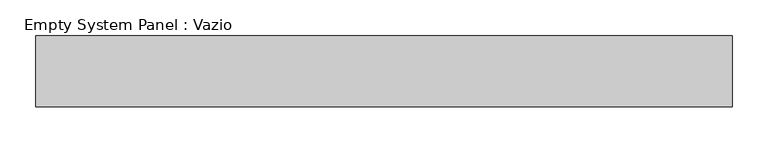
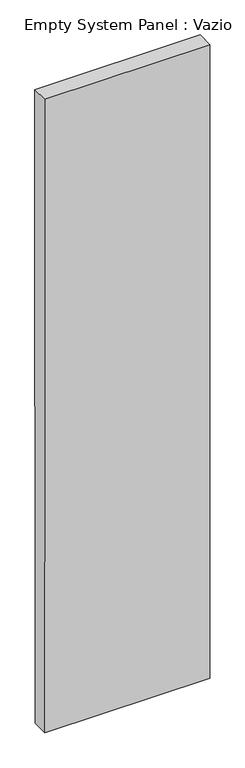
"""IFC4 building model written with IfcOpenShell, lengths in millimetres: plate geometry, Empty System Panel : Vazio."""

from ifc_helpers import new_model, si_unit, frame, origin, place, context, project, spatial, polyline, outline, extrude, source, transform, mapped, element, save


def empty_system_panel_vazio_27755461(model_context):
    return source(origin(), model_context, "Body", "SweptSolid", [
        extrude(outline(polyline([(0.4663177, -489.3703144), (0.0, 490.0000002), (3976.5943466, 490.0000002), (3976.5943466, -490.0000002), (0.4663177, -489.3703144)])), frame((0.0, 50.0, 0.0), z_axis=(0.0, 1.0, 0.0), x_axis=(0.0, 0.0, 1.0)), (0.0, 0.0, 1.0), 100.0),
    ])


if __name__ == "__main__":
    model = new_model("IFC4")
    model_context = context("Model", 3, world=origin())
    ifc_project = project(units=[si_unit("LENGTHUNIT", "METRE", prefix="MILLI")], contexts=[model_context])
    site = spatial("IfcSite", under=ifc_project)
    building = spatial("IfcBuilding", under=site)
    placement = place(None, origin())
    empty_system_panel_vazio_shape = empty_system_panel_vazio_27755461(model_context)
    element("IfcPlate", 1, ObjectType="Empty System Panel : Vazio", at=placement, inside=building, context=model_context, shape_type="MappedRepresentation", body=[
        mapped(empty_system_panel_vazio_shape, transform((0.0, 0.0, 0.0), x_axis=(1.0, 0.0, 0.0), y_axis=(0.0, 1.0, 0.0), z_axis=(0.0, 0.0, 1.0))),
    ])
    save(model, "model.ifc")
